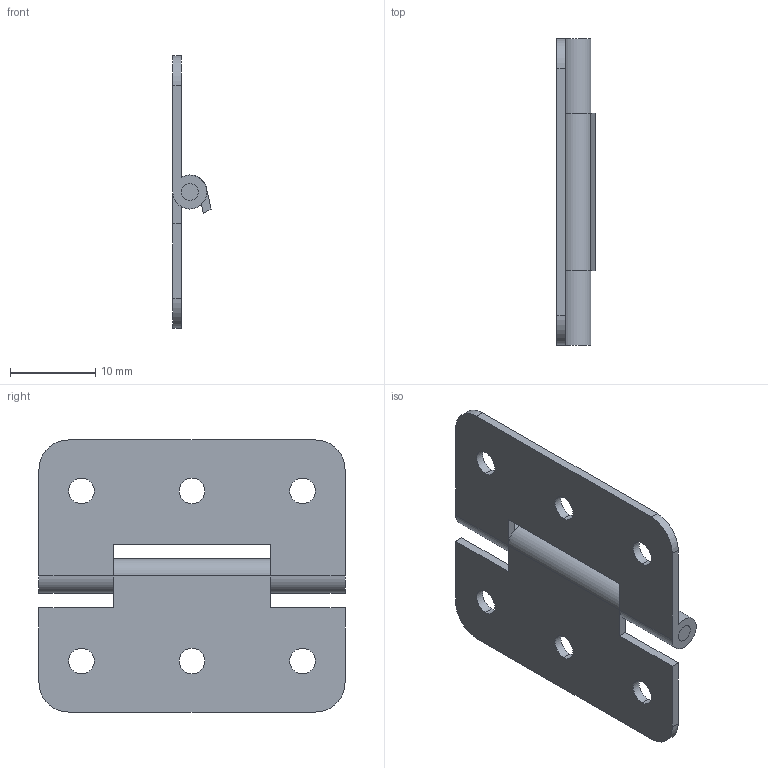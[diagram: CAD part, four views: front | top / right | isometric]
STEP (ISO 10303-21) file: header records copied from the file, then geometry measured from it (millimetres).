
FILE_DESCRIPTION (( 'STEP AP203' ), '1' );
FILE_NAME ('DEH-53-2.STEP', '2013-08-29T10:42:30', ( '中村　妙子' ), ( 'ＮＴ設計' ), 'SwSTEP 2.0', 'SolidWorks 2002296', '' );
FILE_SCHEMA (( 'CONFIG_CONTROL_DESIGN' ));
Length unit declared in the file: millimetre
Products named in the file (4): DEH-53-2; DEH-53-2-2_蹬怮椔; DEH-53-2-3_蹬怮椔; DEH-53-2-1_蹬怮椔
Assembly tree (3 placements, depth 2):
  DEH-53-2
    DEH-53-2-3_蹬怮椔
    DEH-53-2-2_蹬怮椔
    DEH-53-2-1_蹬怮椔
Bounding box: 4.5 x 36 x 32 mm (x, y, z)
Volume: 1350.6 mm3; surface area: 2979.5 mm2
Topology: 3 solids, 3 shells, 48 faces, 126 edges, 84 vertices
Faces by surface type: cylinder 26, plane 22
Entity records: 1948 total; most frequent: DIRECTION 286, CARTESIAN_POINT 264, ORIENTED_EDGE 252, EDGE_CURVE 126, AXIS2_PLACEMENT_3D 106, VERTEX_POINT 84, LINE 74, VECTOR 74
